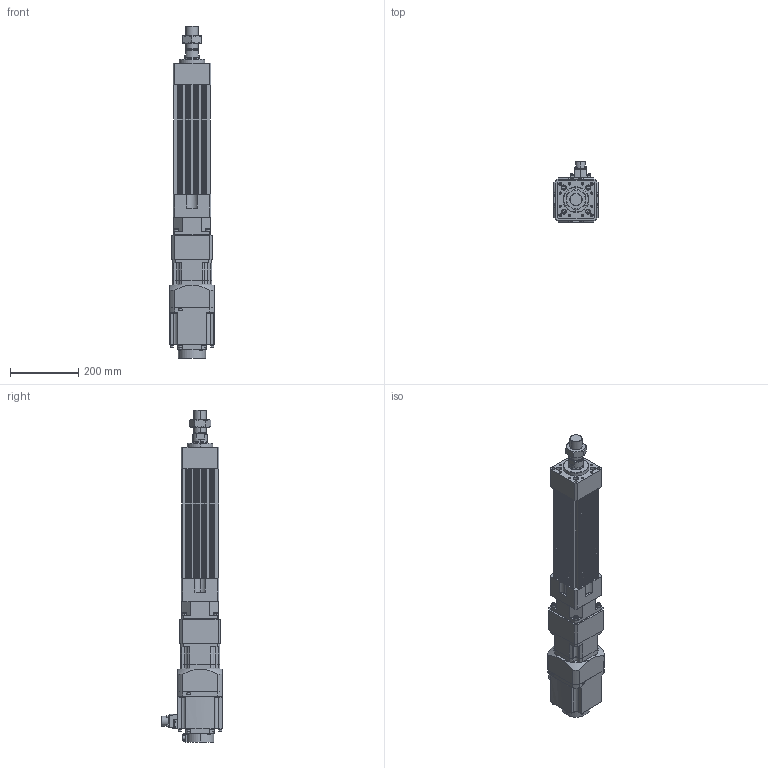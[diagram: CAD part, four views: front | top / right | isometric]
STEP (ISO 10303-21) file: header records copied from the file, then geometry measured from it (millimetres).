
FILE_DESCRIPTION (( 'STEP AP203' ), '1' );
FILE_NAME ('HES110NS(HS)-S150-W015G00-M.STEP', '2023-01-27T10:07:41', ( 'tms' ), ( '' ), 'SwSTEP 2.0', 'SolidWorks 2013', '' );
FILE_SCHEMA (( 'CONFIG_CONTROL_DESIGN' ));
Length unit declared in the file: millimetre
Products named in the file (8): AB115-003[HG-SR152]; HES110 ROD M ST150; M36X1.5P; HES110NS(HS)-S150-W015G00-M; HES110-S150-G120; AB1151; HG-SR152; P0401400706
Assembly tree (7 placements, depth 3):
  HES110NS(HS)-S150-W015G00-M
    HES110-S150-G120
    HES110 ROD M ST150
    M36X1.5P
    AB115-003[HG-SR152]
      AB1151
      P0401400706
    HG-SR152
Bounding box: 130 x 177.49 x 971.5 mm (x, y, z)
Volume: 6222176.9 mm3; surface area: 831158.6 mm2
Topology: 4 solids, 15 shells, 1202 faces, 3026 edges, 1951 vertices
Faces by surface type: plane 551, cylinder 537, cone 102, bspline 8, torus 4
Entity records: 37654 total; most frequent: CARTESIAN_POINT 7134, DIRECTION 6533, ORIENTED_EDGE 5960, EDGE_CURVE 2990, AXIS2_PLACEMENT_3D 2410, VERTEX_POINT 1951, VECTOR 1713, LINE 1713
